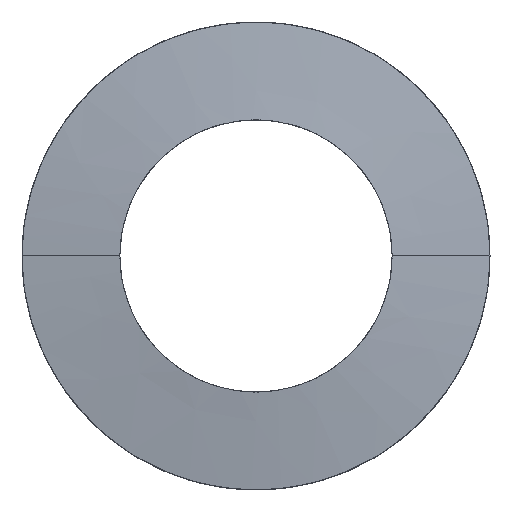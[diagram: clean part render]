
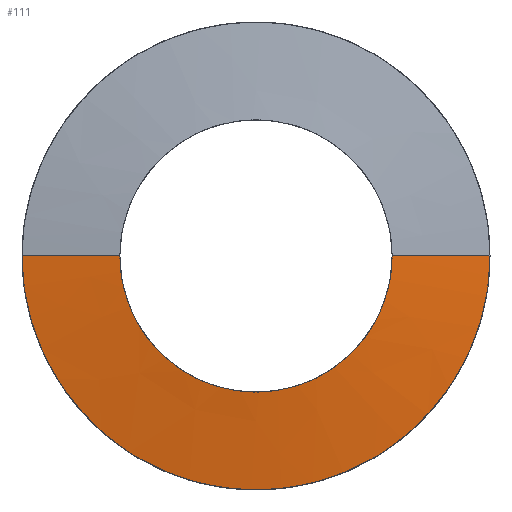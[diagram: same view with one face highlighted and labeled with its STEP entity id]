
A CAD part, top view. The second image highlights one B-rep face of the part: STEP entity #111.
In plain terms, the highlighted free-form (B-spline) face has degree [1, 2] with [2, 9] control points.
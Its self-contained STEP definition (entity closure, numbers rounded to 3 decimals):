
#111=ADVANCED_FACE('',(#119),#391,.T.);
#119=FACE_OUTER_BOUND('',#127,.T.);
#127=EDGE_LOOP('',(#153,#154,#155,#156));
#153=ORIENTED_EDGE('',*,*,#297,.T.);
#154=ORIENTED_EDGE('',*,*,#298,.T.);
#155=ORIENTED_EDGE('',*,*,#299,.T.);
#156=ORIENTED_EDGE('',*,*,#300,.T.);
#173=(
BOUNDED_CURVE()
B_SPLINE_CURVE(2,(#736,#737,#738,#739,#740),.UNSPECIFIED.,.F.,.F.)
B_SPLINE_CURVE_WITH_KNOTS((3,2,3),(1.,2.571,4.142),
 .UNSPECIFIED.)
CURVE()
GEOMETRIC_REPRESENTATION_ITEM()
RATIONAL_B_SPLINE_CURVE((1.,0.707,1.,0.707,1.))
REPRESENTATION_ITEM('')
);
#174=(
BOUNDED_CURVE()
B_SPLINE_CURVE(2,(#747,#748,#749,#750,#751),.UNSPECIFIED.,.F.,.F.)
B_SPLINE_CURVE_WITH_KNOTS((3,2,3),(5.142,6.712,8.283),
 .UNSPECIFIED.)
CURVE()
GEOMETRIC_REPRESENTATION_ITEM()
RATIONAL_B_SPLINE_CURVE((1.,0.707,1.,0.707,1.))
REPRESENTATION_ITEM('')
);
#201=PCURVE('',#391,#233);
#202=PCURVE('',#391,#234);
#203=PCURVE('',#391,#235);
#204=PCURVE('',#391,#236);
#233=DEFINITIONAL_REPRESENTATION('',(#342),#800);
#234=DEFINITIONAL_REPRESENTATION('',(#343),#800);
#235=DEFINITIONAL_REPRESENTATION('',(#345),#800);
#236=DEFINITIONAL_REPRESENTATION('',(#346),#800);
#265=SURFACE_CURVE('',#341,(#201),.PCURVE_S1.);
#266=SURFACE_CURVE('',#173,(#202),.PCURVE_S1.);
#267=SURFACE_CURVE('',#344,(#203),.PCURVE_S1.);
#268=SURFACE_CURVE('',#174,(#204),.PCURVE_S1.);
#297=EDGE_CURVE('',#377,#378,#265,.T.);
#298=EDGE_CURVE('',#378,#380,#266,.T.);
#299=EDGE_CURVE('',#380,#379,#267,.T.);
#300=EDGE_CURVE('',#379,#377,#268,.T.);
#341=B_SPLINE_CURVE_WITH_KNOTS('',1,(#732,#733),.UNSPECIFIED.,.F.,.F.,(2,
2),(0.,1.),.UNSPECIFIED.);
#342=B_SPLINE_CURVE_WITH_KNOTS('',1,(#734,#735),.UNSPECIFIED.,.F.,.F.,(2,
2),(0.,1.),.UNSPECIFIED.);
#343=B_SPLINE_CURVE_WITH_KNOTS('',1,(#741,#742),.UNSPECIFIED.,.F.,.F.,(2,
2),(1.,4.142),.UNSPECIFIED.);
#344=B_SPLINE_CURVE_WITH_KNOTS('',1,(#743,#744),.UNSPECIFIED.,.F.,.F.,(2,
2),(4.142,5.142),.UNSPECIFIED.);
#345=B_SPLINE_CURVE_WITH_KNOTS('',1,(#745,#746),.UNSPECIFIED.,.F.,.F.,(2,
2),(4.142,5.142),.UNSPECIFIED.);
#346=B_SPLINE_CURVE_WITH_KNOTS('',1,(#752,#753),.UNSPECIFIED.,.F.,.F.,(2,
2),(5.142,8.283),.UNSPECIFIED.);
#377=VERTEX_POINT('',#728);
#378=VERTEX_POINT('',#729);
#379=VERTEX_POINT('',#730);
#380=VERTEX_POINT('',#731);
#391=(
BOUNDED_SURFACE()
B_SPLINE_SURFACE(1,2,((#710,#711,#712,#713,#714,#715,#716,#717,#718),(#719,
#720,#721,#722,#723,#724,#725,#726,#727)),.UNSPECIFIED.,.F.,.F.,.F.)
B_SPLINE_SURFACE_WITH_KNOTS((2,2),(3,2,2,2,3),(0.,1.),(0.,1.571,
3.142,4.712,6.283),.UNSPECIFIED.)
GEOMETRIC_REPRESENTATION_ITEM()
RATIONAL_B_SPLINE_SURFACE(((1.,0.707,1.,0.707,1.,
0.707,1.,0.707,1.),(1.,0.707,1.,0.707,
1.,0.707,1.,0.707,1.)))
REPRESENTATION_ITEM('')
SURFACE()
);
#710=CARTESIAN_POINT('',(-0.809,0.,0.));
#711=CARTESIAN_POINT('',(-0.809,0.,0.));
#712=CARTESIAN_POINT('',(-0.809,0.,0.));
#713=CARTESIAN_POINT('',(-0.809,0.,0.));
#714=CARTESIAN_POINT('',(-0.809,0.,0.));
#715=CARTESIAN_POINT('',(-0.809,0.,0.));
#716=CARTESIAN_POINT('',(-0.809,0.,0.));
#717=CARTESIAN_POINT('',(-0.809,0.,0.));
#718=CARTESIAN_POINT('',(-0.809,0.,0.));
#719=CARTESIAN_POINT('',(-0.301,3.889,0.));
#720=CARTESIAN_POINT('',(-0.301,3.889,-3.889));
#721=CARTESIAN_POINT('',(-0.301,0.,-3.889));
#722=CARTESIAN_POINT('',(-0.301,-3.889,-3.889));
#723=CARTESIAN_POINT('',(-0.301,-3.889,0.));
#724=CARTESIAN_POINT('',(-0.301,-3.889,3.889));
#725=CARTESIAN_POINT('',(-0.301,0.,3.889));
#726=CARTESIAN_POINT('',(-0.301,3.889,3.889));
#727=CARTESIAN_POINT('',(-0.301,3.889,0.));
#728=CARTESIAN_POINT('',(-0.45,2.75,0.));
#729=CARTESIAN_POINT('',(-0.6,1.6,0.));
#730=CARTESIAN_POINT('',(-0.45,-2.75,0.));
#731=CARTESIAN_POINT('',(-0.6,-1.6,0.));
#732=CARTESIAN_POINT('',(-0.45,2.75,0.));
#733=CARTESIAN_POINT('',(-0.6,1.6,0.));
#734=CARTESIAN_POINT('',(0.707,6.283));
#735=CARTESIAN_POINT('',(0.411,6.283));
#736=CARTESIAN_POINT('',(-0.6,1.6,0.));
#737=CARTESIAN_POINT('',(-0.6,1.6,1.6));
#738=CARTESIAN_POINT('',(-0.6,0.,1.6));
#739=CARTESIAN_POINT('',(-0.6,-1.6,1.6));
#740=CARTESIAN_POINT('',(-0.6,-1.6,0.));
#741=CARTESIAN_POINT('',(0.411,6.283));
#742=CARTESIAN_POINT('',(0.411,3.142));
#743=CARTESIAN_POINT('',(-0.6,-1.6,0.));
#744=CARTESIAN_POINT('',(-0.45,-2.75,0.));
#745=CARTESIAN_POINT('',(0.411,3.142));
#746=CARTESIAN_POINT('',(0.707,3.142));
#747=CARTESIAN_POINT('',(-0.45,-2.75,0.));
#748=CARTESIAN_POINT('',(-0.45,-2.75,2.75));
#749=CARTESIAN_POINT('',(-0.45,0.,2.75));
#750=CARTESIAN_POINT('',(-0.45,2.75,2.75));
#751=CARTESIAN_POINT('',(-0.45,2.75,0.));
#752=CARTESIAN_POINT('',(0.707,3.142));
#753=CARTESIAN_POINT('',(0.707,6.283));
#800=(
GEOMETRIC_REPRESENTATION_CONTEXT(2)
PARAMETRIC_REPRESENTATION_CONTEXT()
REPRESENTATION_CONTEXT('pspace','')
);
